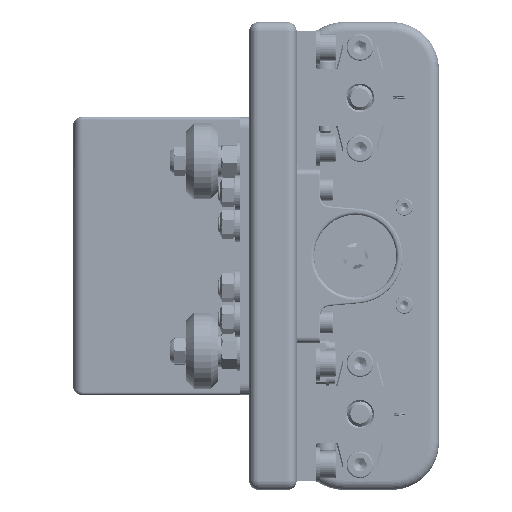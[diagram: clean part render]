
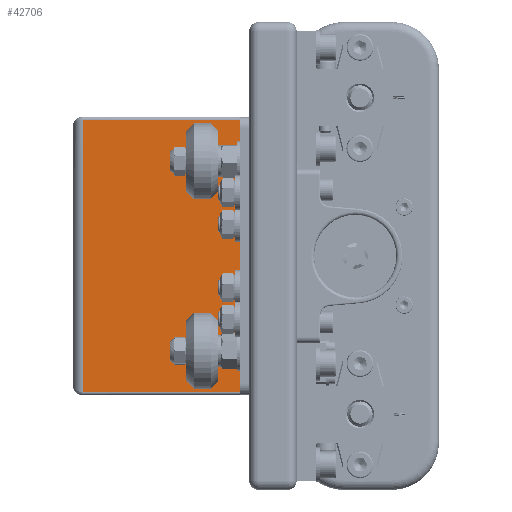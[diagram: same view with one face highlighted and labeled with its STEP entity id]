
A CAD part, front view. The second image highlights one B-rep face of the part: STEP entity #42706.
In plain terms, the highlighted planar face has unit normal (0, -1, 0).
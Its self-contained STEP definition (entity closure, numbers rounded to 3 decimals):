
#3565=PLANE('',#46392);
#5001=FACE_OUTER_BOUND('',#7602,.T.);
#7602=EDGE_LOOP('',(#31920,#31921,#31922,#31923,#31924,#31925));
#10343=LINE('',#102393,#13230);
#10428=LINE('',#102926,#13315);
#10431=LINE('',#102934,#13318);
#10451=LINE('',#103009,#13338);
#13230=VECTOR('',#52293,10.);
#13315=VECTOR('',#52770,10.);
#13318=VECTOR('',#52783,10.);
#13338=VECTOR('',#52855,10.);
#15878=CIRCLE('',#46085,3.);
#16051=CIRCLE('',#46393,3.);
#18312=VERTEX_POINT('',#101941);
#18313=VERTEX_POINT('',#101943);
#18418=VERTEX_POINT('',#102391);
#18501=VERTEX_POINT('',#102868);
#18503=VERTEX_POINT('',#102903);
#18539=VERTEX_POINT('',#103007);
#23063=EDGE_CURVE('',#18313,#18312,#15878,.T.);
#23197=EDGE_CURVE('',#18418,#18312,#10343,.T.);
#23387=EDGE_CURVE('',#18501,#18503,#10428,.T.);
#23392=EDGE_CURVE('',#18313,#18501,#10431,.T.);
#23427=EDGE_CURVE('',#18539,#18418,#16051,.F.);
#23428=EDGE_CURVE('',#18503,#18539,#10451,.T.);
#31920=ORIENTED_EDGE('',*,*,#23387,.F.);
#31921=ORIENTED_EDGE('',*,*,#23392,.F.);
#31922=ORIENTED_EDGE('',*,*,#23063,.T.);
#31923=ORIENTED_EDGE('',*,*,#23197,.F.);
#31924=ORIENTED_EDGE('',*,*,#23427,.F.);
#31925=ORIENTED_EDGE('',*,*,#23428,.F.);
#42706=ADVANCED_FACE('',(#5001),#3565,.F.);
#46085=AXIS2_PLACEMENT_3D('',#101944,#52065,#52066);
#46392=AXIS2_PLACEMENT_3D('',#103006,#52851,#52852);
#46393=AXIS2_PLACEMENT_3D('',#103008,#52853,#52854);
#52065=DIRECTION('center_axis',(0.,1.,0.));
#52066=DIRECTION('ref_axis',(-0.707,0.,-0.707));
#52293=DIRECTION('',(0.,0.,-1.));
#52770=DIRECTION('',(0.,0.,1.));
#52783=DIRECTION('',(-1.,0.,0.));
#52851=DIRECTION('center_axis',(0.,1.,0.));
#52852=DIRECTION('ref_axis',(0.,0.,1.));
#52853=DIRECTION('center_axis',(0.,1.,0.));
#52854=DIRECTION('ref_axis',(-0.707,0.,0.707));
#52855=DIRECTION('',(1.,0.,0.));
#101941=CARTESIAN_POINT('',(-5.,63.5,-41.));
#101943=CARTESIAN_POINT('',(-4.236,63.5,-43.));
#101944=CARTESIAN_POINT('Origin',(-2.,63.5,-41.));
#102391=CARTESIAN_POINT('',(-5.,63.5,41.));
#102393=CARTESIAN_POINT('',(-5.,63.5,-22.));
#102868=CARTESIAN_POINT('',(-57.725,63.5,-43.));
#102903=CARTESIAN_POINT('',(-57.725,63.5,43.));
#102926=CARTESIAN_POINT('',(-57.725,63.5,0.));
#102934=CARTESIAN_POINT('',(-1.5,63.5,-43.));
#103006=CARTESIAN_POINT('Origin',(-3.,63.5,0.));
#103007=CARTESIAN_POINT('',(-4.236,63.5,43.));
#103008=CARTESIAN_POINT('Origin',(-2.,63.5,41.));
#103009=CARTESIAN_POINT('',(-1.5,63.5,43.));
